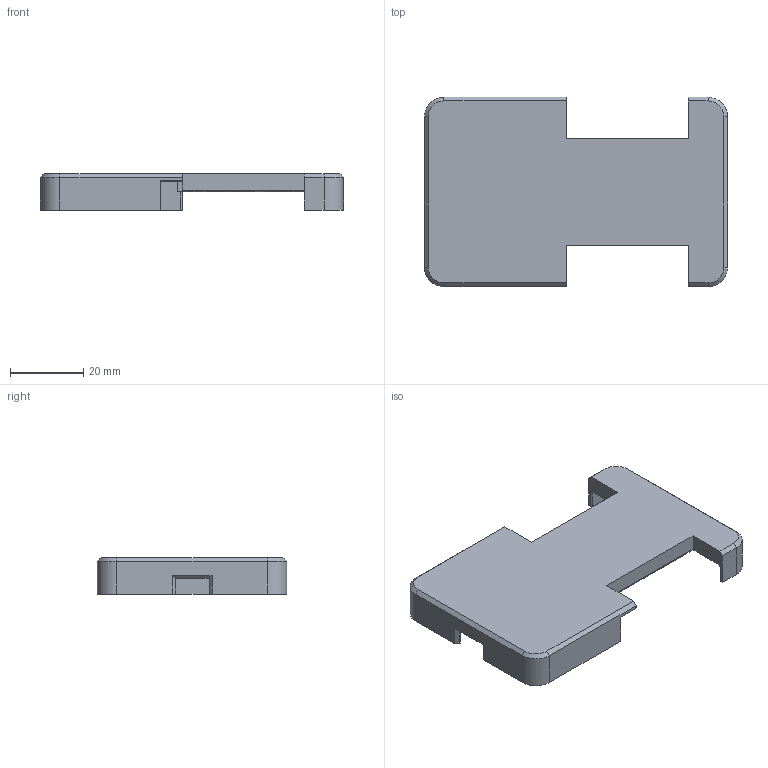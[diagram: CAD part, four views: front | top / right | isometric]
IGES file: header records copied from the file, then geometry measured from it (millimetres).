
Global section: file name: lid; native system: unknown; preprocessor: unknown; author: unknown; organization: unknown; date: 20201102.192528; units: millimetre
Bounding box: 82.6 x 51.6 x 9.95 mm (x, y, z)
Volume: 7325.7 mm3; surface area: 10975.3 mm2
Topology: 1 solids, 1 shells, 124 faces, 306 edges, 188 vertices
Faces by surface type: bspline 124
